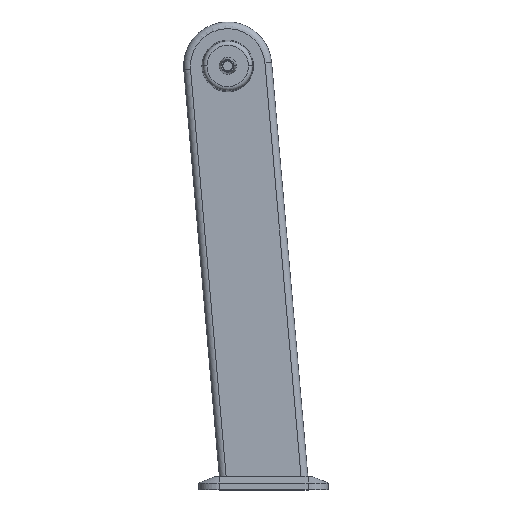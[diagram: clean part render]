
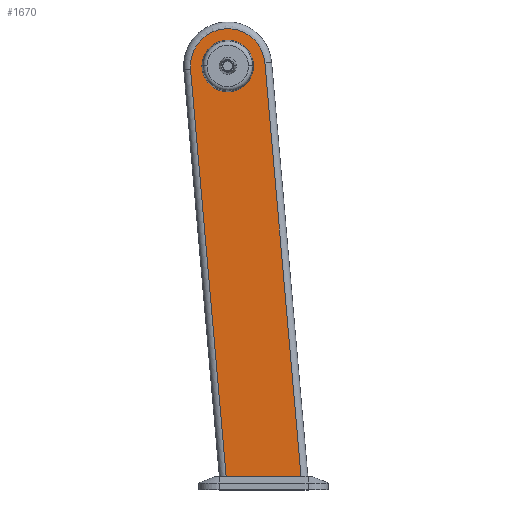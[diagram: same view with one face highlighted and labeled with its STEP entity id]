
A CAD part, top view. The second image highlights one B-rep face of the part: STEP entity #1670.
In plain terms, the highlighted planar face has unit normal (0, 0, 1).
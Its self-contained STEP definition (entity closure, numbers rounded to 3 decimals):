
#131 = ORIENTED_EDGE ( 'NONE', *, *, #542, .F. ) ;
#216 = VERTEX_POINT ( 'NONE', #2383 ) ;
#233 = PLANE ( 'NONE',  #3119 ) ;
#359 = ORIENTED_EDGE ( 'NONE', *, *, #2540, .T. ) ;
#361 = EDGE_CURVE ( 'NONE', #1678, #1098, #1249, .T. ) ;
#370 = EDGE_LOOP ( 'NONE', ( #1922, #2944, #359, #1335 ) ) ;
#408 = EDGE_CURVE ( 'NONE', #1425, #216, #2408, .T. ) ;
#446 = DIRECTION ( 'NONE',  ( 0., 0., 1. ) ) ;
#542 = EDGE_CURVE ( 'NONE', #216, #1425, #2691, .T. ) ;
#622 = LINE ( 'NONE', #1332, #703 ) ;
#662 = LINE ( 'NONE', #2155, #1899 ) ;
#703 = VECTOR ( 'NONE', #2074, 1000. ) ;
#708 = CARTESIAN_POINT ( 'NONE',  ( 0., 0., 31.25 ) ) ;
#798 = VERTEX_POINT ( 'NONE', #1916 ) ;
#869 = ORIENTED_EDGE ( 'NONE', *, *, #408, .F. ) ;
#942 = AXIS2_PLACEMENT_3D ( 'NONE', #1931, #446, #2180 ) ;
#961 = DIRECTION ( 'NONE',  ( 1., 0., 0. ) ) ;
#1003 = CARTESIAN_POINT ( 'NONE',  ( 0., 0., 31.25 ) ) ;
#1098 = VERTEX_POINT ( 'NONE', #1604 ) ;
#1196 = CARTESIAN_POINT ( 'NONE',  ( -0.606, -624.128, 31.25 ) ) ;
#1245 = DIRECTION ( 'NONE',  ( 1., 0., 0. ) ) ;
#1249 = CIRCLE ( 'NONE', #2822, 55. ) ;
#1265 = EDGE_CURVE ( 'NONE', #798, #1678, #662, .T. ) ;
#1294 = CARTESIAN_POINT ( 'NONE',  ( -2.279, -605., 31.25 ) ) ;
#1332 = CARTESIAN_POINT ( 'NONE',  ( 0., -605., 31.25 ) ) ;
#1335 = ORIENTED_EDGE ( 'NONE', *, *, #1476, .T. ) ;
#1388 = FACE_OUTER_BOUND ( 'NONE', #370, .T. ) ;
#1413 = VERTEX_POINT ( 'NONE', #1294 ) ;
#1425 = VERTEX_POINT ( 'NONE', #2282 ) ;
#1441 = DIRECTION ( 'NONE',  ( 0.087, -0.996, 0. ) ) ;
#1468 = EDGE_LOOP ( 'NONE', ( #131, #869 ) ) ;
#1476 = EDGE_CURVE ( 'NONE', #1413, #798, #622, .T. ) ;
#1490 = DIRECTION ( 'NONE',  ( 0., 0., 1. ) ) ;
#1604 = CARTESIAN_POINT ( 'NONE',  ( -54.791, -4.794, 31.25 ) ) ;
#1642 = LINE ( 'NONE', #1196, #2959 ) ;
#1670 = ADVANCED_FACE ( 'NONE', ( #1388, #2720 ), #233, .T. ) ;
#1678 = VERTEX_POINT ( 'NONE', #2486 ) ;
#1899 = VECTOR ( 'NONE', #2910, 1000. ) ;
#1916 = CARTESIAN_POINT ( 'NONE',  ( 108.141, -605., 31.25 ) ) ;
#1922 = ORIENTED_EDGE ( 'NONE', *, *, #1265, .T. ) ;
#1931 = CARTESIAN_POINT ( 'NONE',  ( 0., 0., 31.25 ) ) ;
#2074 = DIRECTION ( 'NONE',  ( 1., 0., 0. ) ) ;
#2155 = CARTESIAN_POINT ( 'NONE',  ( 54.791, 4.794, 31.25 ) ) ;
#2180 = DIRECTION ( 'NONE',  ( 1., 0., 0. ) ) ;
#2282 = CARTESIAN_POINT ( 'NONE',  ( -38., 0., 31.25 ) ) ;
#2383 = CARTESIAN_POINT ( 'NONE',  ( 38., 0., 31.25 ) ) ;
#2408 = CIRCLE ( 'NONE', #942, 38. ) ;
#2440 = DIRECTION ( 'NONE',  ( 0., 0., 1. ) ) ;
#2486 = CARTESIAN_POINT ( 'NONE',  ( 54.791, 4.794, 31.25 ) ) ;
#2540 = EDGE_CURVE ( 'NONE', #1098, #1413, #1642, .T. ) ;
#2691 = CIRCLE ( 'NONE', #2933, 38. ) ;
#2720 = FACE_BOUND ( 'NONE', #1468, .T. ) ;
#2738 = DIRECTION ( 'NONE',  ( 0., 0., 1. ) ) ;
#2822 = AXIS2_PLACEMENT_3D ( 'NONE', #708, #2440, #961 ) ;
#2910 = DIRECTION ( 'NONE',  ( -0.087, 0.996, 0. ) ) ;
#2933 = AXIS2_PLACEMENT_3D ( 'NONE', #2971, #1490, #3220 ) ;
#2944 = ORIENTED_EDGE ( 'NONE', *, *, #361, .T. ) ;
#2959 = VECTOR ( 'NONE', #1441, 1000. ) ;
#2971 = CARTESIAN_POINT ( 'NONE',  ( 0., 0., 31.25 ) ) ;
#3119 = AXIS2_PLACEMENT_3D ( 'NONE', #1003, #2738, #1245 ) ;
#3220 = DIRECTION ( 'NONE',  ( 1., 0., 0. ) ) ;
